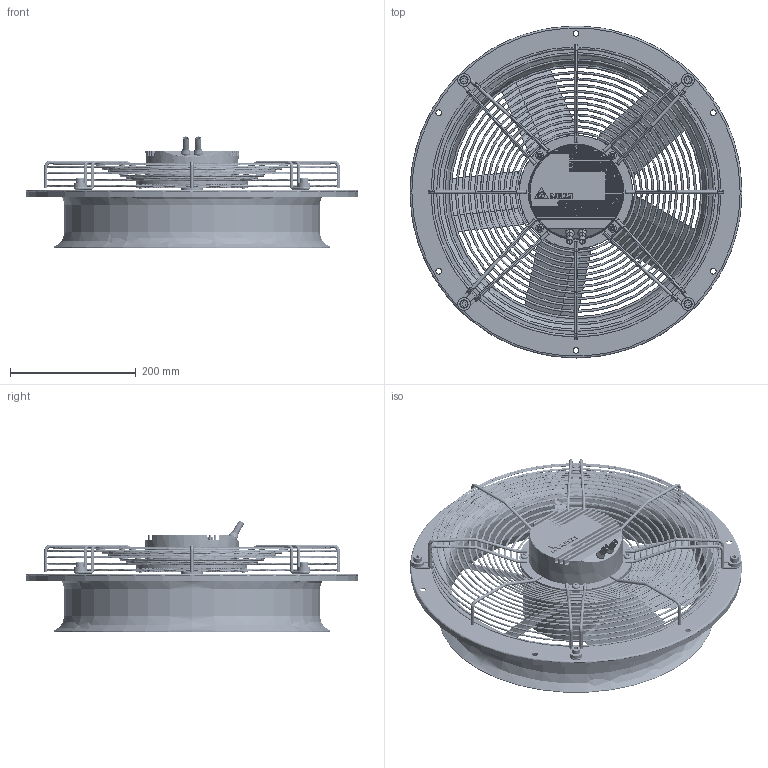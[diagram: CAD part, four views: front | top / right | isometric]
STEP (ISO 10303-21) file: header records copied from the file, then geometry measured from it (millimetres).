
FILE_DESCRIPTION (( 'STEP AP214' ), '1' );
FILE_NAME ('GTW040FUC15Rx.STEP', '2018-05-08T01:38:02', ( '' ), ( '' ), 'SwSTEP 2.0', 'SolidWorks 2014', '' );
FILE_SCHEMA (( 'AUTOMOTIVE_DESIGN' ));
Length unit declared in the file: millimetre
Products named in the file (17): 6-torx-m4-l10; case-084; cover_3_d; wall_ring(預設); GTW040FUC15Rx; 41011538001; BoltM6L12; sealant; 3230416800; FanGuard; M8nut; flange-084; 4103164600_00A_blade; BoltM8L20; 4101261500-pillow; gt355-case-assy-084; 3815403000
Assembly tree (29 placements, depth 3):
  GTW040FUC15Rx
    FanGuard
    M8nut  x4
    BoltM8L20  x4
    wall_ring(預設)
    BoltM6L12  x4
    cover_3_d
    4103164600_00A_blade
    6-torx-m4-l10  x4
    3815403000
      3230416800  x2
      41011538001
    gt355-case-assy-084
      case-084
      flange-084
    sealant
    4101261500-pillow
Bounding box: 528 x 528 x 176.72 mm (x, y, z)
Volume: 2923191.5 mm3; surface area: 1279053 mm2
Topology: 39 solids, 39 shells, 4717 faces, 12986 edges, 8091 vertices
Faces by surface type: bspline 1501, plane 1382, cylinder 1234, torus 266, cone 234, sphere 100
Entity records: 271423 total; most frequent: CARTESIAN_POINT 124790, ORIENTED_EDGE 24456, DIRECTION 14735, EDGE_CURVE 12228, VERTEX_POINT 7637, AXIS2_PLACEMENT_3D 5437, B_SPLINE_CURVE_WITH_KNOTS 5235, EDGE_LOOP 4843
